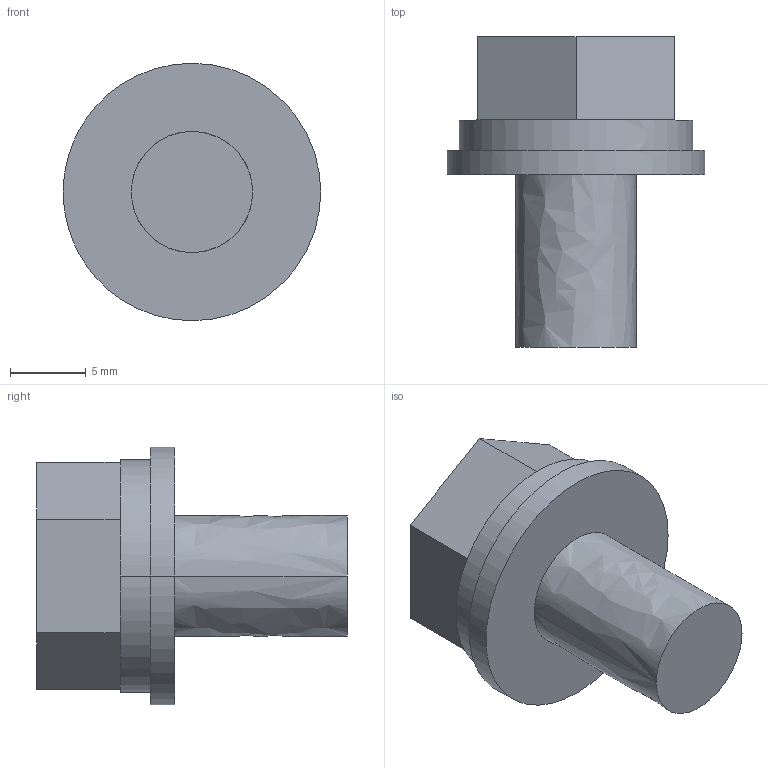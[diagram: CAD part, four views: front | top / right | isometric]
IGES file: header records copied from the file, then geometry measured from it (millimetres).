
Start section:  PTC IGES file: sw-pw-p-up-m8x15.igs
Global section: file name: sw-pw-p-up-m8x15.igs; native system: Pro/ENGINEER by Parametric Technology Corporation; preprocessor: 2006420; author: JE18792; organization: Unknown; date: 20101129.152806; units: millimetre
Bounding box: 17 x 20.5 x 17 mm (x, y, z)
Volume: 2113.7 mm3; surface area: 1170.4 mm2
Topology: 1 solids, 1 shells, 17 faces, 36 edges, 24 vertices
Faces by surface type: bspline 17
